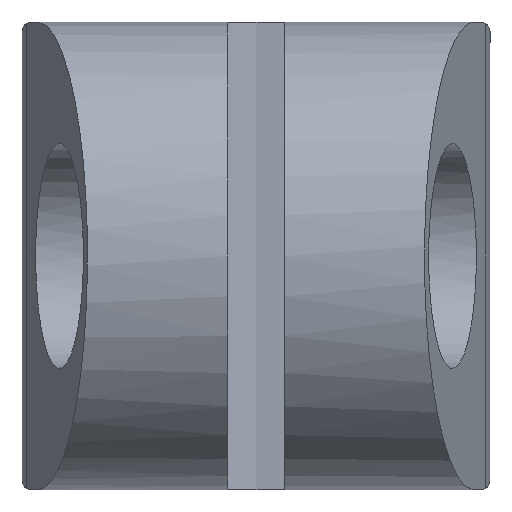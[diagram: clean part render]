
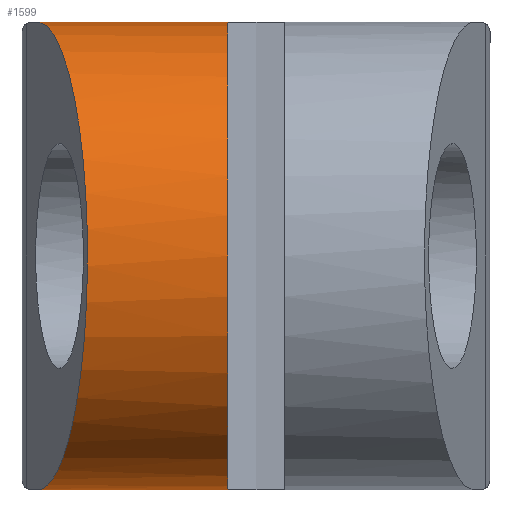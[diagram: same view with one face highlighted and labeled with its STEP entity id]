
A CAD part, left-side view. The second image highlights one B-rep face of the part: STEP entity #1599.
In plain terms, the highlighted cylindrical face has radius 12.5 mm (diameter 25 mm), a partial arc.
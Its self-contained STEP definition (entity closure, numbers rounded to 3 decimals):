
#78 = CARTESIAN_POINT ( 'NONE',  ( 714.8, 414.457, -508.89 ) ) ;
#96 = CARTESIAN_POINT ( 'NONE',  ( 714.8, 404.3, -496.39 ) ) ;
#169 = ORIENTED_EDGE ( 'NONE', *, *, #1607, .T. ) ;
#192 = DIRECTION ( 'NONE',  ( 0., 0., 1. ) ) ;
#211 = EDGE_CURVE ( 'NONE', #728, #844, #357, .T. ) ;
#291 = CIRCLE ( 'NONE', #2569, 12.5 ) ;
#357 =( BOUNDED_CURVE ( )  B_SPLINE_CURVE ( 3, ( #2016, #2618, #613, #78 ),
 .UNSPECIFIED., .F., .T. ) 
 B_SPLINE_CURVE_WITH_KNOTS ( ( 4, 4 ),
 ( 1.571, 4.712 ),
 .UNSPECIFIED. ) 
 CURVE ( )  GEOMETRIC_REPRESENTATION_ITEM ( )  RATIONAL_B_SPLINE_CURVE ( ( 1., 0.333, 0.333, 1. ) ) 
 REPRESENTATION_ITEM ( '' )  );
#470 = DIRECTION ( 'NONE',  ( 0., 1., 0. ) ) ;
#507 = ORIENTED_EDGE ( 'NONE', *, *, #211, .T. ) ;
#517 = LINE ( 'NONE', #663, #3100 ) ;
#536 = DIRECTION ( 'NONE',  ( 0., 1., 0. ) ) ;
#575 = CARTESIAN_POINT ( 'NONE',  ( 714.8, 414.457, -483.89 ) ) ;
#613 = CARTESIAN_POINT ( 'NONE',  ( 689.8, 409.143, -508.89 ) ) ;
#663 = CARTESIAN_POINT ( 'NONE',  ( 714.8, 415.15, -508.89 ) ) ;
#728 = VERTEX_POINT ( 'NONE', #575 ) ;
#801 = CARTESIAN_POINT ( 'NONE',  ( 714.8, 415.15, -483.89 ) ) ;
#841 = EDGE_CURVE ( 'NONE', #1393, #3726, #291, .T. ) ;
#844 = VERTEX_POINT ( 'NONE', #872 ) ;
#859 = LINE ( 'NONE', #801, #2599 ) ;
#872 = CARTESIAN_POINT ( 'NONE',  ( 714.8, 414.457, -508.89 ) ) ;
#879 = DIRECTION ( 'NONE',  ( 0., -1., 0. ) ) ;
#1071 = EDGE_LOOP ( 'NONE', ( #1814, #169, #507, #3052 ) ) ;
#1089 = FACE_OUTER_BOUND ( 'NONE', #1071, .T. ) ;
#1393 = VERTEX_POINT ( 'NONE', #2689 ) ;
#1594 = CARTESIAN_POINT ( 'NONE',  ( 714.8, 415.15, -496.39 ) ) ;
#1599 = ADVANCED_FACE ( 'NONE', ( #1089 ), #2923, .T. ) ;
#1607 = EDGE_CURVE ( 'NONE', #3726, #728, #859, .T. ) ;
#1814 = ORIENTED_EDGE ( 'NONE', *, *, #841, .T. ) ;
#1937 = CARTESIAN_POINT ( 'NONE',  ( 714.8, 404.3, -483.89 ) ) ;
#2016 = CARTESIAN_POINT ( 'NONE',  ( 714.8, 414.457, -483.89 ) ) ;
#2496 = EDGE_CURVE ( 'NONE', #844, #1393, #517, .T. ) ;
#2569 = AXIS2_PLACEMENT_3D ( 'NONE', #96, #2586, #2600 ) ;
#2586 = DIRECTION ( 'NONE',  ( 0., 1., 0. ) ) ;
#2599 = VECTOR ( 'NONE', #536, 1000. ) ;
#2600 = DIRECTION ( 'NONE',  ( 0., 0., 1. ) ) ;
#2618 = CARTESIAN_POINT ( 'NONE',  ( 689.8, 409.143, -483.89 ) ) ;
#2689 = CARTESIAN_POINT ( 'NONE',  ( 714.8, 404.3, -508.89 ) ) ;
#2923 = CYLINDRICAL_SURFACE ( 'NONE', #3260, 12.5 ) ;
#3052 = ORIENTED_EDGE ( 'NONE', *, *, #2496, .T. ) ;
#3100 = VECTOR ( 'NONE', #879, 1000. ) ;
#3260 = AXIS2_PLACEMENT_3D ( 'NONE', #1594, #470, #192 ) ;
#3726 = VERTEX_POINT ( 'NONE', #1937 ) ;
